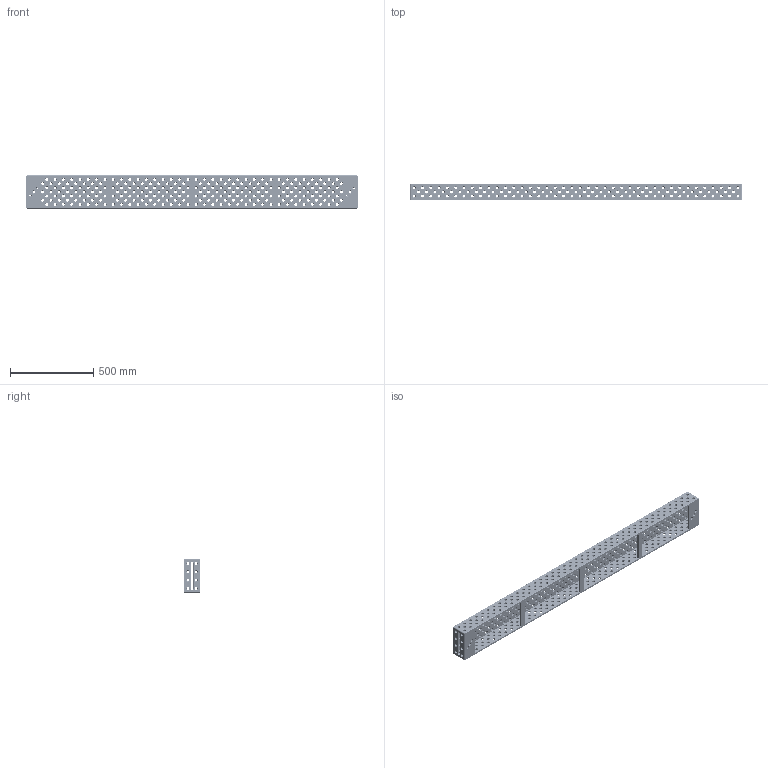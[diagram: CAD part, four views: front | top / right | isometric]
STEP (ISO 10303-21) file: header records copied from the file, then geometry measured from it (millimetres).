
FILE_DESCRIPTION (( 'STEP AP203' ), '1' );
FILE_NAME ('160390.1_2000x200x100.step', '2014-08-11T15:31:39', ( 'User' ), ( '' ), 'SwSTEP 2.0', 'SolidWorks 2014', '' );
FILE_SCHEMA (( 'CONFIG_CONTROL_DESIGN' ));
Length unit declared in the file: millimetre
Products named in the file (1): 160390.1_2000x200x100
Bounding box: 2000 x 100 x 200 mm (x, y, z)
Volume: 8424381.3 mm3; surface area: 1751362.6 mm2
Topology: 1 solids, 1 shells, 3294 faces, 7702 edges, 4408 vertices
Faces by surface type: cone 1098, cylinder 1090, torus 1070, plane 36
Entity records: 96745 total; most frequent: DIRECTION 19706, CARTESIAN_POINT 15405, ORIENTED_EDGE 15404, AXIS2_PLACEMENT_3D 8709, EDGE_CURVE 7702, CIRCLE 5414, VERTEX_POINT 4408, EDGE_LOOP 4376
